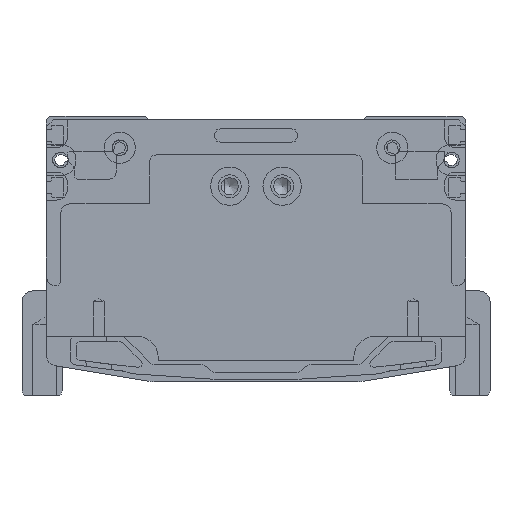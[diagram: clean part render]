
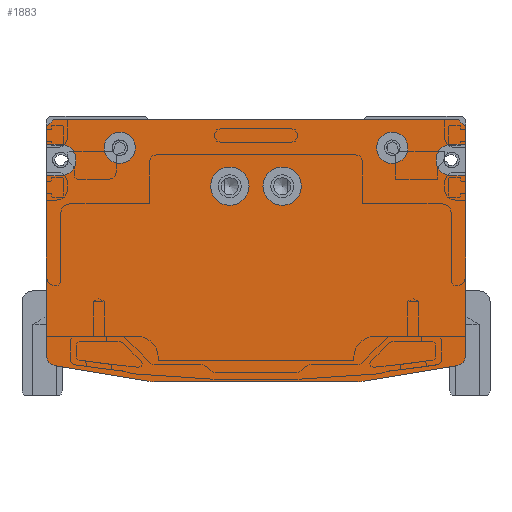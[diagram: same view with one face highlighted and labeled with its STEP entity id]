
A CAD part, front view. The second image highlights one B-rep face of the part: STEP entity #1883.
In plain terms, the highlighted planar face has unit normal (0, -1, 0).
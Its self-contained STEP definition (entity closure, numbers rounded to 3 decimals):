
#1883=ADVANCED_FACE('',(#3163,#3164,#3165,#3166,#3167),#2633,.F.);
#2633=PLANE('',#18778);
#3163=FACE_BOUND('',#4537,.T.);
#3164=FACE_BOUND('',#4538,.T.);
#3165=FACE_BOUND('',#4539,.T.);
#3166=FACE_BOUND('',#4540,.T.);
#3167=FACE_BOUND('',#4541,.T.);
#4537=EDGE_LOOP('',(#8918));
#4538=EDGE_LOOP('',(#8919));
#4539=EDGE_LOOP('',(#8920,#8921,#8922,#8923,#8924,#8925,#8926,#8927,#8928,
#8929,#8930,#8931,#8932,#8933,#8934,#8935,#8936,#8937,#8938,#8939));
#4540=EDGE_LOOP('',(#8940));
#4541=EDGE_LOOP('',(#8941));
#5909=CIRCLE('',#18679,5.5);
#5913=CIRCLE('',#18686,5.5);
#5916=CIRCLE('',#18692,4.5);
#5920=CIRCLE('',#18699,4.5);
#5927=CIRCLE('',#18717,4.5);
#5930=CIRCLE('',#18726,3.);
#5933=CIRCLE('',#18731,10.);
#5934=CIRCLE('',#18734,10.);
#5937=CIRCLE('',#18739,3.);
#5945=CIRCLE('',#18766,4.5);
#8918=ORIENTED_EDGE('',*,*,#14464,.T.);
#8919=ORIENTED_EDGE('',*,*,#14468,.T.);
#8920=ORIENTED_EDGE('',*,*,#14529,.T.);
#8921=ORIENTED_EDGE('',*,*,#14525,.F.);
#8922=ORIENTED_EDGE('',*,*,#14523,.F.);
#8923=ORIENTED_EDGE('',*,*,#14520,.F.);
#8924=ORIENTED_EDGE('',*,*,#14516,.T.);
#8925=ORIENTED_EDGE('',*,*,#14513,.T.);
#8926=ORIENTED_EDGE('',*,*,#14170,.F.);
#8927=ORIENTED_EDGE('',*,*,#14499,.T.);
#8928=ORIENTED_EDGE('',*,*,#14496,.T.);
#8929=ORIENTED_EDGE('',*,*,#14494,.F.);
#8930=ORIENTED_EDGE('',*,*,#14166,.F.);
#8931=ORIENTED_EDGE('',*,*,#14490,.T.);
#8932=ORIENTED_EDGE('',*,*,#14141,.F.);
#8933=ORIENTED_EDGE('',*,*,#14488,.T.);
#8934=ORIENTED_EDGE('',*,*,#13867,.F.);
#8935=ORIENTED_EDGE('',*,*,#14564,.T.);
#8936=ORIENTED_EDGE('',*,*,#14561,.T.);
#8937=ORIENTED_EDGE('',*,*,#14559,.F.);
#8938=ORIENTED_EDGE('',*,*,#13863,.F.);
#8939=ORIENTED_EDGE('',*,*,#14532,.T.);
#8940=ORIENTED_EDGE('',*,*,#14475,.F.);
#8941=ORIENTED_EDGE('',*,*,#14471,.F.);
#11930=VERTEX_POINT('',#27706);
#11931=VERTEX_POINT('',#27708);
#11934=VERTEX_POINT('',#27714);
#11935=VERTEX_POINT('',#27716);
#12068=VERTEX_POINT('',#28703);
#12069=VERTEX_POINT('',#28705);
#12084=VERTEX_POINT('',#28751);
#12085=VERTEX_POINT('',#28753);
#12088=VERTEX_POINT('',#28759);
#12089=VERTEX_POINT('',#28761);
#12288=VERTEX_POINT('',#29850);
#12292=VERTEX_POINT('',#29861);
#12295=VERTEX_POINT('',#29870);
#12298=VERTEX_POINT('',#29880);
#12306=VERTEX_POINT('',#29915);
#12308=VERTEX_POINT('',#29922);
#12319=VERTEX_POINT('',#29956);
#12321=VERTEX_POINT('',#29962);
#12324=VERTEX_POINT('',#29970);
#12326=VERTEX_POINT('',#29976);
#12327=VERTEX_POINT('',#29980);
#12330=VERTEX_POINT('',#29988);
#12342=VERTEX_POINT('',#30047);
#12344=VERTEX_POINT('',#30054);
#13863=EDGE_CURVE('',#11930,#11931,#15786,.T.);
#13867=EDGE_CURVE('',#11934,#11935,#15790,.T.);
#14141=EDGE_CURVE('',#12068,#12069,#15925,.T.);
#14166=EDGE_CURVE('',#12084,#12085,#15950,.T.);
#14170=EDGE_CURVE('',#12088,#12089,#15954,.T.);
#14464=EDGE_CURVE('',#12288,#12288,#5909,.T.);
#14468=EDGE_CURVE('',#12292,#12292,#5913,.T.);
#14471=EDGE_CURVE('',#12295,#12295,#5916,.T.);
#14475=EDGE_CURVE('',#12298,#12298,#5920,.T.);
#14488=EDGE_CURVE('',#12068,#11935,#16128,.T.);
#14490=EDGE_CURVE('',#12084,#12069,#16130,.T.);
#14494=EDGE_CURVE('',#12085,#12306,#16134,.T.);
#14496=EDGE_CURVE('',#12308,#12306,#5927,.T.);
#14499=EDGE_CURVE('',#12088,#12308,#16137,.T.);
#14513=EDGE_CURVE('',#12319,#12089,#5930,.T.);
#14516=EDGE_CURVE('',#12321,#12319,#16150,.T.);
#14520=EDGE_CURVE('',#12321,#12324,#5933,.T.);
#14523=EDGE_CURVE('',#12324,#12326,#16155,.T.);
#14525=EDGE_CURVE('',#12326,#12327,#5934,.T.);
#14529=EDGE_CURVE('',#12330,#12327,#16159,.T.);
#14532=EDGE_CURVE('',#11930,#12330,#5937,.T.);
#14559=EDGE_CURVE('',#11931,#12342,#16181,.T.);
#14561=EDGE_CURVE('',#12344,#12342,#5945,.T.);
#14564=EDGE_CURVE('',#11934,#12344,#16184,.T.);
#15786=LINE('',#27707,#16968);
#15790=LINE('',#27715,#16972);
#15925=LINE('',#28704,#17107);
#15950=LINE('',#28752,#17132);
#15954=LINE('',#28760,#17136);
#16128=LINE('',#29907,#17310);
#16130=LINE('',#29910,#17312);
#16134=LINE('',#29917,#17316);
#16137=LINE('',#29926,#17319);
#16150=LINE('',#29961,#17332);
#16155=LINE('',#29975,#17337);
#16159=LINE('',#29987,#17341);
#16181=LINE('',#30049,#17363);
#16184=LINE('',#30058,#17366);
#16968=VECTOR('',#21204,1.);
#16972=VECTOR('',#21208,1.);
#17107=VECTOR('',#21659,1.);
#17132=VECTOR('',#21698,1.);
#17136=VECTOR('',#21702,1.);
#17310=VECTOR('',#22462,1.);
#17312=VECTOR('',#22466,1.);
#17316=VECTOR('',#22472,1.);
#17319=VECTOR('',#22483,1.);
#17332=VECTOR('',#22516,1.);
#17337=VECTOR('',#22529,1.);
#17341=VECTOR('',#22541,1.);
#17363=VECTOR('',#22617,1.);
#17366=VECTOR('',#22628,1.);
#18679=AXIS2_PLACEMENT_3D('',#29849,#22387,#22388);
#18686=AXIS2_PLACEMENT_3D('',#29860,#22401,#22402);
#18692=AXIS2_PLACEMENT_3D('',#29869,#22413,#22414);
#18699=AXIS2_PLACEMENT_3D('',#29879,#22427,#22428);
#18717=AXIS2_PLACEMENT_3D('',#29921,#22477,#22478);
#18726=AXIS2_PLACEMENT_3D('',#29955,#22509,#22510);
#18731=AXIS2_PLACEMENT_3D('',#29969,#22523,#22524);
#18734=AXIS2_PLACEMENT_3D('',#29979,#22533,#22534);
#18739=AXIS2_PLACEMENT_3D('',#29992,#22547,#22548);
#18766=AXIS2_PLACEMENT_3D('',#30053,#22622,#22623);
#18778=AXIS2_PLACEMENT_3D('',#30075,#22653,#22654);
#21204=DIRECTION('',(0.,0.,1.));
#21208=DIRECTION('',(0.,0.,1.));
#21659=DIRECTION('',(1.,0.,0.));
#21698=DIRECTION('',(0.,0.,-1.));
#21702=DIRECTION('',(0.,0.,-1.));
#22387=DIRECTION('',(0.,1.,0.));
#22388=DIRECTION('',(1.,0.,0.));
#22401=DIRECTION('',(0.,1.,0.));
#22402=DIRECTION('',(1.,0.,0.));
#22413=DIRECTION('',(0.,-1.,0.));
#22414=DIRECTION('',(1.,0.,0.));
#22427=DIRECTION('',(0.,-1.,0.));
#22428=DIRECTION('',(1.,0.,0.));
#22462=DIRECTION('',(-0.707,0.,-0.707));
#22466=DIRECTION('',(-0.707,0.,0.707));
#22472=DIRECTION('',(-1.,0.,0.));
#22477=DIRECTION('',(0.,1.,0.));
#22478=DIRECTION('',(0.,0.,-1.));
#22483=DIRECTION('',(-1.,0.,0.));
#22509=DIRECTION('',(0.,-1.,0.));
#22510=DIRECTION('',(0.164,0.,-0.986));
#22516=DIRECTION('',(0.986,0.,0.164));
#22523=DIRECTION('',(0.,1.,0.));
#22524=DIRECTION('',(0.164,0.,-0.986));
#22529=DIRECTION('',(-1.,0.,0.));
#22533=DIRECTION('',(0.,1.,0.));
#22534=DIRECTION('',(0.,0.,-1.));
#22541=DIRECTION('',(0.986,0.,-0.164));
#22547=DIRECTION('',(0.,-1.,0.));
#22548=DIRECTION('',(-1.,0.,0.));
#22617=DIRECTION('',(1.,0.,0.));
#22622=DIRECTION('',(0.,1.,0.));
#22623=DIRECTION('',(0.,0.,1.));
#22628=DIRECTION('',(1.,0.,0.));
#22653=DIRECTION('',(0.,1.,0.));
#22654=DIRECTION('',(1.,0.,0.));
#27706=CARTESIAN_POINT('',(-60.,-2812.,-69.459));
#27707=CARTESIAN_POINT('',(-60.,-2812.,-69.459));
#27708=CARTESIAN_POINT('',(-60.,-2812.,-18.));
#27714=CARTESIAN_POINT('',(-60.,-2812.,-9.));
#27715=CARTESIAN_POINT('',(-60.,-2812.,-9.));
#27716=CARTESIAN_POINT('',(-60.,-2812.,-4.));
#28703=CARTESIAN_POINT('',(-58.,-2812.,-2.));
#28704=CARTESIAN_POINT('',(-58.,-2812.,-2.));
#28705=CARTESIAN_POINT('',(58.,-2812.,-2.));
#28751=CARTESIAN_POINT('',(60.,-2812.,-4.));
#28752=CARTESIAN_POINT('',(60.,-2812.,-4.));
#28753=CARTESIAN_POINT('',(60.,-2812.,-9.));
#28759=CARTESIAN_POINT('',(60.,-2812.,-18.));
#28760=CARTESIAN_POINT('',(60.,-2812.,-18.));
#28761=CARTESIAN_POINT('',(60.,-2812.,-69.459));
#29849=CARTESIAN_POINT('',(7.5,-2812.,-21.));
#29850=CARTESIAN_POINT('',(13.,-2812.,-21.));
#29860=CARTESIAN_POINT('',(-7.5,-2812.,-21.));
#29861=CARTESIAN_POINT('',(-2.,-2812.,-21.));
#29869=CARTESIAN_POINT('',(-39.,-2812.,-10.));
#29870=CARTESIAN_POINT('',(-34.5,-2812.,-10.));
#29879=CARTESIAN_POINT('',(39.,-2812.,-10.));
#29880=CARTESIAN_POINT('',(43.5,-2812.,-10.));
#29907=CARTESIAN_POINT('',(-58.,-2812.,-2.));
#29910=CARTESIAN_POINT('',(60.,-2812.,-4.));
#29915=CARTESIAN_POINT('',(56.,-2812.,-9.));
#29917=CARTESIAN_POINT('',(60.,-2812.,-9.));
#29921=CARTESIAN_POINT('',(56.,-2812.,-13.5));
#29922=CARTESIAN_POINT('',(56.,-2812.,-18.));
#29926=CARTESIAN_POINT('',(60.,-2812.,-18.));
#29955=CARTESIAN_POINT('',(57.,-2812.,-69.459));
#29956=CARTESIAN_POINT('',(57.493,-2812.,-72.418));
#29961=CARTESIAN_POINT('',(30.816,-2812.,-76.864));
#29962=CARTESIAN_POINT('',(30.816,-2812.,-76.864));
#29969=CARTESIAN_POINT('',(29.172,-2812.,-67.));
#29970=CARTESIAN_POINT('',(29.172,-2812.,-77.));
#29975=CARTESIAN_POINT('',(29.172,-2812.,-77.));
#29976=CARTESIAN_POINT('',(-29.172,-2812.,-77.));
#29979=CARTESIAN_POINT('',(-29.172,-2812.,-67.));
#29980=CARTESIAN_POINT('',(-30.816,-2812.,-76.864));
#29987=CARTESIAN_POINT('',(-57.493,-2812.,-72.418));
#29988=CARTESIAN_POINT('',(-57.493,-2812.,-72.418));
#29992=CARTESIAN_POINT('',(-57.,-2812.,-69.459));
#30047=CARTESIAN_POINT('',(-56.,-2812.,-18.));
#30049=CARTESIAN_POINT('',(-60.,-2812.,-18.));
#30053=CARTESIAN_POINT('',(-56.,-2812.,-13.5));
#30054=CARTESIAN_POINT('',(-56.,-2812.,-9.));
#30058=CARTESIAN_POINT('',(-60.,-2812.,-9.));
#30075=CARTESIAN_POINT('',(0.,-2812.,-2.));
